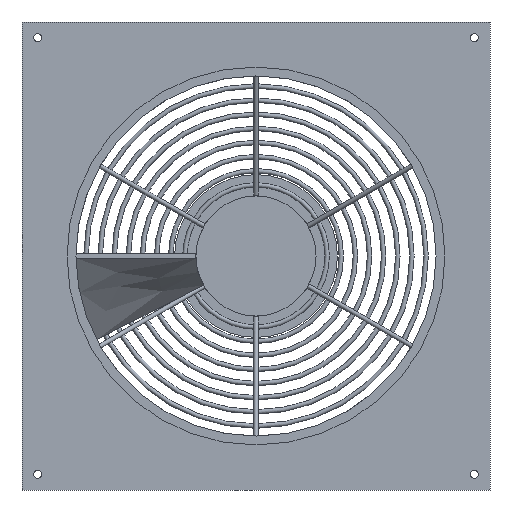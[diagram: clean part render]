
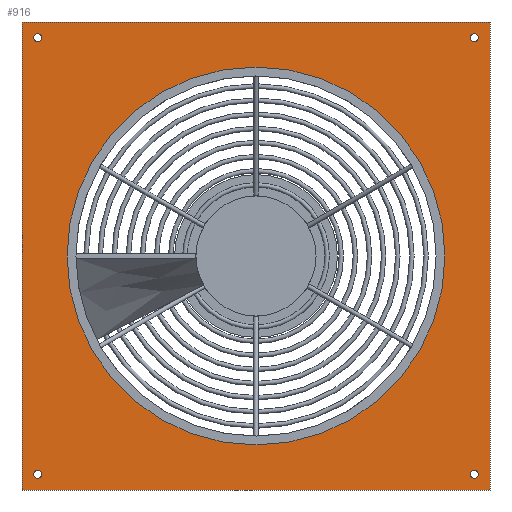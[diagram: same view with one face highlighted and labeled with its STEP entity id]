
A CAD part, front view. The second image highlights one B-rep face of the part: STEP entity #916.
In plain terms, the highlighted planar face has unit normal (0, -1, 0).
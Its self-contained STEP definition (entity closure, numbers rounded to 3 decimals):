
#21=LINE('',#1945,#43);
#23=LINE('',#1952,#45);
#25=LINE('',#1958,#47);
#26=LINE('',#1960,#48);
#43=VECTOR('',#1220,10.);
#45=VECTOR('',#1228,10.);
#47=VECTOR('',#1234,10.);
#48=VECTOR('',#1237,10.);
#109=PLANE('',#1044);
#159=FACE_BOUND('',#371,.T.);
#160=FACE_BOUND('',#372,.T.);
#161=FACE_BOUND('',#373,.T.);
#162=FACE_BOUND('',#374,.T.);
#163=FACE_BOUND('',#375,.T.);
#207=CIRCLE('',#1033,4.5);
#208=CIRCLE('',#1035,4.5);
#209=CIRCLE('',#1037,4.5);
#210=CIRCLE('',#1039,4.5);
#212=CIRCLE('',#1042,212.);
#271=FACE_OUTER_BOUND('',#370,.T.);
#370=EDGE_LOOP('',(#814,#815,#816,#817));
#371=EDGE_LOOP('',(#818));
#372=EDGE_LOOP('',(#819));
#373=EDGE_LOOP('',(#820));
#374=EDGE_LOOP('',(#821));
#375=EDGE_LOOP('',(#822));
#452=VERTEX_POINT('',#1942);
#453=VERTEX_POINT('',#1944);
#455=VERTEX_POINT('',#1950);
#457=VERTEX_POINT('',#1956);
#479=VERTEX_POINT('',#2136);
#480=VERTEX_POINT('',#2139);
#481=VERTEX_POINT('',#2142);
#482=VERTEX_POINT('',#2145);
#484=VERTEX_POINT('',#2150);
#551=EDGE_CURVE('',#453,#452,#21,.T.);
#555=EDGE_CURVE('',#452,#455,#23,.T.);
#558=EDGE_CURVE('',#455,#457,#25,.T.);
#559=EDGE_CURVE('',#457,#453,#26,.T.);
#591=EDGE_CURVE('',#479,#479,#207,.T.);
#592=EDGE_CURVE('',#480,#480,#208,.T.);
#593=EDGE_CURVE('',#481,#481,#209,.T.);
#594=EDGE_CURVE('',#482,#482,#210,.T.);
#596=EDGE_CURVE('',#484,#484,#212,.T.);
#814=ORIENTED_EDGE('',*,*,#551,.T.);
#815=ORIENTED_EDGE('',*,*,#555,.T.);
#816=ORIENTED_EDGE('',*,*,#558,.T.);
#817=ORIENTED_EDGE('',*,*,#559,.T.);
#818=ORIENTED_EDGE('',*,*,#591,.T.);
#819=ORIENTED_EDGE('',*,*,#592,.T.);
#820=ORIENTED_EDGE('',*,*,#593,.T.);
#821=ORIENTED_EDGE('',*,*,#594,.T.);
#822=ORIENTED_EDGE('',*,*,#596,.T.);
#916=ADVANCED_FACE('',(#271,#159,#160,#161,#162,#163),#109,.F.);
#1033=AXIS2_PLACEMENT_3D('',#2137,#1285,#1286);
#1035=AXIS2_PLACEMENT_3D('',#2140,#1289,#1290);
#1037=AXIS2_PLACEMENT_3D('',#2143,#1293,#1294);
#1039=AXIS2_PLACEMENT_3D('',#2146,#1297,#1298);
#1042=AXIS2_PLACEMENT_3D('',#2151,#1303,#1304);
#1044=AXIS2_PLACEMENT_3D('',#2153,#1307,#1308);
#1220=DIRECTION('',(1.,0.,0.));
#1228=DIRECTION('',(0.,0.,1.));
#1234=DIRECTION('',(-1.,0.,0.));
#1237=DIRECTION('',(0.,0.,-1.));
#1285=DIRECTION('center_axis',(0.,1.,0.));
#1286=DIRECTION('ref_axis',(1.,0.,0.));
#1289=DIRECTION('center_axis',(0.,1.,0.));
#1290=DIRECTION('ref_axis',(1.,0.,0.));
#1293=DIRECTION('center_axis',(0.,1.,0.));
#1294=DIRECTION('ref_axis',(1.,0.,0.));
#1297=DIRECTION('center_axis',(0.,1.,0.));
#1298=DIRECTION('ref_axis',(1.,0.,0.));
#1303=DIRECTION('center_axis',(0.,1.,0.));
#1304=DIRECTION('ref_axis',(-1.,0.,0.));
#1307=DIRECTION('center_axis',(0.,1.,0.));
#1308=DIRECTION('ref_axis',(0.,0.,1.));
#1942=CARTESIAN_POINT('',(262.5,0.,-262.5));
#1944=CARTESIAN_POINT('',(-262.5,0.,-262.5));
#1945=CARTESIAN_POINT('',(-262.5,0.,-262.5));
#1950=CARTESIAN_POINT('',(262.5,0.,262.5));
#1952=CARTESIAN_POINT('',(262.5,0.,-262.5));
#1956=CARTESIAN_POINT('',(-262.5,0.,262.5));
#1958=CARTESIAN_POINT('',(262.5,0.,262.5));
#1960=CARTESIAN_POINT('',(-262.5,0.,262.5));
#2136=CARTESIAN_POINT('',(-240.5,0.,-245.));
#2137=CARTESIAN_POINT('Origin',(-245.,0.,-245.));
#2139=CARTESIAN_POINT('',(249.5,0.,245.));
#2140=CARTESIAN_POINT('Origin',(245.,0.,245.));
#2142=CARTESIAN_POINT('',(249.5,0.,-245.));
#2143=CARTESIAN_POINT('Origin',(245.,0.,-245.));
#2145=CARTESIAN_POINT('',(-240.5,0.,245.));
#2146=CARTESIAN_POINT('Origin',(-245.,0.,245.));
#2150=CARTESIAN_POINT('',(212.,0.,0.));
#2151=CARTESIAN_POINT('Origin',(0.,0.,0.));
#2153=CARTESIAN_POINT('Origin',(0.,0.,0.));
